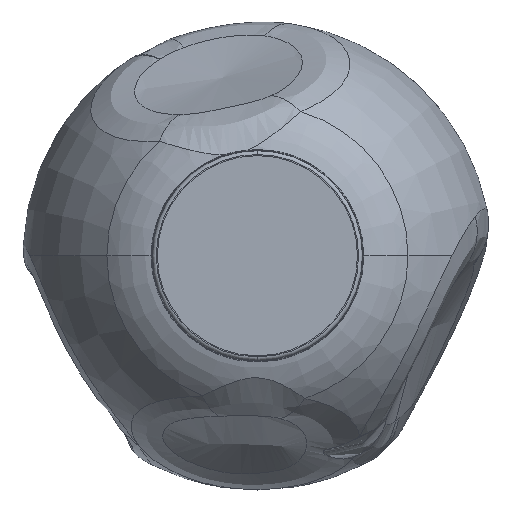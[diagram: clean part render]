
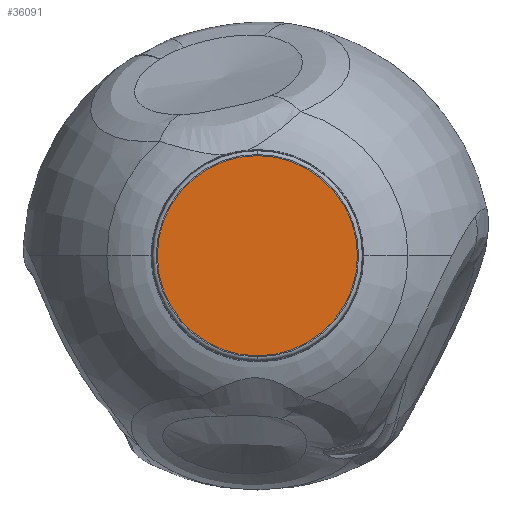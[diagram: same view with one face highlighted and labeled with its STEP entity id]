
A CAD part, front view. The second image highlights one B-rep face of the part: STEP entity #36091.
In plain terms, the highlighted planar face has unit normal (0, -1, 0).
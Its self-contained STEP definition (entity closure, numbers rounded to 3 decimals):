
#152 = CARTESIAN_POINT ( 'NONE',  ( 0., -4.069, -51.268 ) ) ;
#1596 = CIRCLE ( 'NONE', #8000, 51.268 ) ;
#2054 = AXIS2_PLACEMENT_3D ( 'NONE', #5952, #37021, #18139 ) ;
#2365 = DIRECTION ( 'NONE',  ( 0., 0., -1. ) ) ;
#3669 = DIRECTION ( 'NONE',  ( 0., -1., 0. ) ) ;
#5952 = CARTESIAN_POINT ( 'NONE',  ( -51.268, -4.069, 0. ) ) ;
#6333 = VERTEX_POINT ( 'NONE', #152 ) ;
#8000 = AXIS2_PLACEMENT_3D ( 'NONE', #20961, #14570, #2365 ) ;
#9338 = PLANE ( 'NONE',  #2054 ) ;
#13066 = DIRECTION ( 'NONE',  ( 0., 0., -1. ) ) ;
#13590 = ORIENTED_EDGE ( 'NONE', *, *, #21551, .T. ) ;
#14570 = DIRECTION ( 'NONE',  ( 0., -1., 0. ) ) ;
#15151 = FACE_OUTER_BOUND ( 'NONE', #17939, .T. ) ;
#15926 = CARTESIAN_POINT ( 'NONE',  ( 0., -4.069, 51.268 ) ) ;
#17939 = EDGE_LOOP ( 'NONE', ( #13590, #37459 ) ) ;
#18139 = DIRECTION ( 'NONE',  ( 0., 0., 1. ) ) ;
#20961 = CARTESIAN_POINT ( 'NONE',  ( 0., -4.069, 0. ) ) ;
#21445 = CIRCLE ( 'NONE', #34304, 51.268 ) ;
#21551 = EDGE_CURVE ( 'NONE', #6333, #35727, #1596, .T. ) ;
#28451 = EDGE_CURVE ( 'NONE', #35727, #6333, #21445, .T. ) ;
#30928 = CARTESIAN_POINT ( 'NONE',  ( 0., -4.069, 0. ) ) ;
#34304 = AXIS2_PLACEMENT_3D ( 'NONE', #30928, #3669, #13066 ) ;
#35727 = VERTEX_POINT ( 'NONE', #15926 ) ;
#36091 = ADVANCED_FACE ( 'NONE', ( #15151 ), #9338, .F. ) ;
#37021 = DIRECTION ( 'NONE',  ( 0., 1., 0. ) ) ;
#37459 = ORIENTED_EDGE ( 'NONE', *, *, #28451, .T. ) ;
